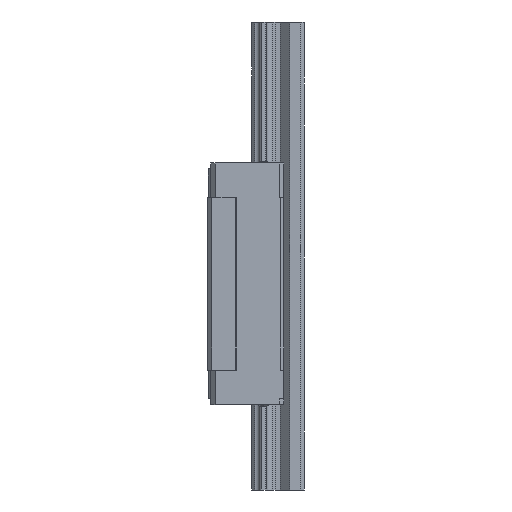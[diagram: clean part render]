
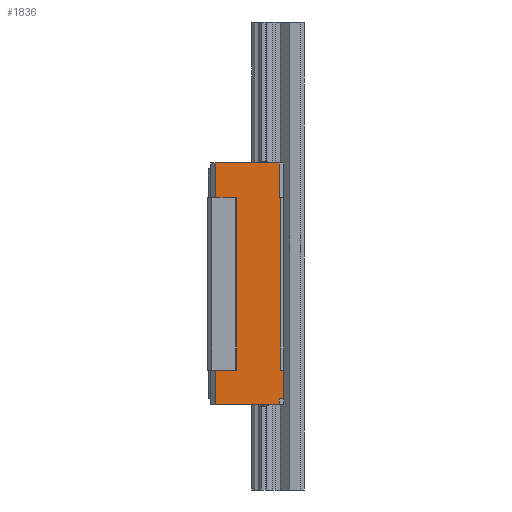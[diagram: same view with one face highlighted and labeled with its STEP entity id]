
A CAD part, left-side view. The second image highlights one B-rep face of the part: STEP entity #1836.
In plain terms, the highlighted planar face has unit normal (-1, 0, 0).
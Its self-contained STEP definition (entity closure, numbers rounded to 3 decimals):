
#159 = EDGE_CURVE ( 'NONE', #13835, #8451, #2828, .T. ) ;
#171 = ORIENTED_EDGE ( 'NONE', *, *, #4341, .F. ) ;
#290 = DIRECTION ( 'NONE',  ( 0., -1., 0. ) ) ;
#305 = LINE ( 'NONE', #13697, #7385 ) ;
#311 = DIRECTION ( 'NONE',  ( 0., 0., -1. ) ) ;
#597 = LINE ( 'NONE', #6511, #13965 ) ;
#693 = DIRECTION ( 'NONE',  ( 0., 0., 1. ) ) ;
#915 = VECTOR ( 'NONE', #693, 1000. ) ;
#923 = EDGE_CURVE ( 'NONE', #12370, #8451, #2545, .T. ) ;
#1058 = ORIENTED_EDGE ( 'NONE', *, *, #2715, .F. ) ;
#1102 = VECTOR ( 'NONE', #15551, 1000. ) ;
#1589 = EDGE_CURVE ( 'NONE', #5056, #3200, #5850, .T. ) ;
#1741 = DIRECTION ( 'NONE',  ( 0., 0., 1. ) ) ;
#1785 = VERTEX_POINT ( 'NONE', #5746 ) ;
#1790 = EDGE_CURVE ( 'NONE', #8989, #5056, #15459, .T. ) ;
#1795 = VECTOR ( 'NONE', #10764, 1000. ) ;
#1836 = ADVANCED_FACE ( 'NONE', ( #14106 ), #6849, .F. ) ;
#2026 = LINE ( 'NONE', #9259, #2737 ) ;
#2420 = EDGE_CURVE ( 'NONE', #13835, #8989, #8831, .T. ) ;
#2545 = LINE ( 'NONE', #11000, #1795 ) ;
#2561 = DIRECTION ( 'NONE',  ( 0., -1., 0. ) ) ;
#2715 = EDGE_CURVE ( 'NONE', #6124, #7032, #8090, .T. ) ;
#2720 = ORIENTED_EDGE ( 'NONE', *, *, #923, .F. ) ;
#2737 = VECTOR ( 'NONE', #5702, 1000. ) ;
#2828 = LINE ( 'NONE', #12297, #7881 ) ;
#2872 = CARTESIAN_POINT ( 'NONE',  ( -23.7, 12.5, 11.8 ) ) ;
#3147 = CARTESIAN_POINT ( 'NONE',  ( -23.7, 0., 0. ) ) ;
#3200 = VERTEX_POINT ( 'NONE', #12592 ) ;
#3279 = DIRECTION ( 'NONE',  ( 0., 1., 0. ) ) ;
#3375 = VERTEX_POINT ( 'NONE', #9704 ) ;
#3584 = VERTEX_POINT ( 'NONE', #2872 ) ;
#4171 = CARTESIAN_POINT ( 'NONE',  ( -23.7, -9.9, -59. ) ) ;
#4244 = VECTOR ( 'NONE', #311, 1000. ) ;
#4341 = EDGE_CURVE ( 'NONE', #1785, #10640, #305, .T. ) ;
#4503 = VERTEX_POINT ( 'NONE', #8505 ) ;
#4583 = CARTESIAN_POINT ( 'NONE',  ( -23.7, -11., -59. ) ) ;
#4858 = CARTESIAN_POINT ( 'NONE',  ( -23.7, -9.9, -59. ) ) ;
#4993 = DIRECTION ( 'NONE',  ( 0., 1., 0. ) ) ;
#5040 = ORIENTED_EDGE ( 'NONE', *, *, #5377, .F. ) ;
#5056 = VERTEX_POINT ( 'NONE', #10380 ) ;
#5163 = ORIENTED_EDGE ( 'NONE', *, *, #14749, .T. ) ;
#5377 = EDGE_CURVE ( 'NONE', #3375, #1785, #2026, .T. ) ;
#5394 = DIRECTION ( 'NONE',  ( 0., -1., 0. ) ) ;
#5702 = DIRECTION ( 'NONE',  ( 0., 1., 0. ) ) ;
#5746 = CARTESIAN_POINT ( 'NONE',  ( -23.7, 12.5, -70.8 ) ) ;
#5850 = LINE ( 'NONE', #4583, #1102 ) ;
#6124 = VERTEX_POINT ( 'NONE', #15326 ) ;
#6264 = EDGE_CURVE ( 'NONE', #3584, #12370, #7340, .T. ) ;
#6511 = CARTESIAN_POINT ( 'NONE',  ( -23.7, 15., -68.8 ) ) ;
#6635 = CARTESIAN_POINT ( 'NONE',  ( -23.7, 12.5, -59. ) ) ;
#6849 = PLANE ( 'NONE',  #15370 ) ;
#7032 = VERTEX_POINT ( 'NONE', #11043 ) ;
#7340 = LINE ( 'NONE', #13487, #7481 ) ;
#7385 = VECTOR ( 'NONE', #1741, 1000. ) ;
#7481 = VECTOR ( 'NONE', #2561, 1000. ) ;
#7678 = ORIENTED_EDGE ( 'NONE', *, *, #1790, .F. ) ;
#7881 = VECTOR ( 'NONE', #4993, 1000. ) ;
#8008 = ORIENTED_EDGE ( 'NONE', *, *, #159, .T. ) ;
#8090 = LINE ( 'NONE', #14167, #915 ) ;
#8415 = LINE ( 'NONE', #8496, #13241 ) ;
#8451 = VERTEX_POINT ( 'NONE', #15232 ) ;
#8496 = CARTESIAN_POINT ( 'NONE',  ( -23.7, -9.5, -59. ) ) ;
#8505 = CARTESIAN_POINT ( 'NONE',  ( -23.7, 12.5, 0. ) ) ;
#8630 = CARTESIAN_POINT ( 'NONE',  ( -23.7, 12.5, -59. ) ) ;
#8831 = LINE ( 'NONE', #4171, #4244 ) ;
#8989 = VERTEX_POINT ( 'NONE', #4858 ) ;
#9069 = EDGE_LOOP ( 'NONE', ( #10475, #15758, #15483, #7678, #10916, #8008, #2720, #9816, #10555, #5163, #1058, #11001, #171, #5040 ) ) ;
#9230 = EDGE_CURVE ( 'NONE', #9923, #3200, #597, .T. ) ;
#9259 = CARTESIAN_POINT ( 'NONE',  ( -23.7, 15., -70.8 ) ) ;
#9383 = DIRECTION ( 'NONE',  ( 0., -1., 0. ) ) ;
#9497 = VECTOR ( 'NONE', #11669, 1000. ) ;
#9704 = CARTESIAN_POINT ( 'NONE',  ( -23.7, -9.5, -70.8 ) ) ;
#9815 = EDGE_CURVE ( 'NONE', #9923, #3375, #8415, .T. ) ;
#9816 = ORIENTED_EDGE ( 'NONE', *, *, #6264, .F. ) ;
#9923 = VERTEX_POINT ( 'NONE', #11529 ) ;
#10380 = CARTESIAN_POINT ( 'NONE',  ( -23.7, -11., -59. ) ) ;
#10475 = ORIENTED_EDGE ( 'NONE', *, *, #9815, .F. ) ;
#10555 = ORIENTED_EDGE ( 'NONE', *, *, #15383, .F. ) ;
#10640 = VERTEX_POINT ( 'NONE', #8630 ) ;
#10764 = DIRECTION ( 'NONE',  ( 0., 0., -1. ) ) ;
#10802 = VECTOR ( 'NONE', #15158, 1000. ) ;
#10916 = ORIENTED_EDGE ( 'NONE', *, *, #2420, .F. ) ;
#11000 = CARTESIAN_POINT ( 'NONE',  ( -23.7, -9.5, -59. ) ) ;
#11001 = ORIENTED_EDGE ( 'NONE', *, *, #14865, .F. ) ;
#11005 = CARTESIAN_POINT ( 'NONE',  ( -23.7, -9.9, 0. ) ) ;
#11043 = CARTESIAN_POINT ( 'NONE',  ( -23.7, 5.3, 0. ) ) ;
#11529 = CARTESIAN_POINT ( 'NONE',  ( -23.7, -9.5, -68.8 ) ) ;
#11669 = DIRECTION ( 'NONE',  ( 0., -1., 0. ) ) ;
#11715 = DIRECTION ( 'NONE',  ( 1., 0., 0. ) ) ;
#11791 = CARTESIAN_POINT ( 'NONE',  ( -23.7, 14., -59. ) ) ;
#11824 = LINE ( 'NONE', #3147, #9497 ) ;
#12297 = CARTESIAN_POINT ( 'NONE',  ( -23.7, 0., 0. ) ) ;
#12324 = CARTESIAN_POINT ( 'NONE',  ( -23.7, -9.5, 11.8 ) ) ;
#12370 = VERTEX_POINT ( 'NONE', #12324 ) ;
#12513 = LINE ( 'NONE', #6635, #10802 ) ;
#12592 = CARTESIAN_POINT ( 'NONE',  ( -23.7, -11., -68.8 ) ) ;
#13241 = VECTOR ( 'NONE', #13293, 1000. ) ;
#13293 = DIRECTION ( 'NONE',  ( 0., 0., -1. ) ) ;
#13487 = CARTESIAN_POINT ( 'NONE',  ( -23.7, 14., 11.8 ) ) ;
#13573 = VECTOR ( 'NONE', #290, 1000. ) ;
#13697 = CARTESIAN_POINT ( 'NONE',  ( -23.7, 12.5, -59. ) ) ;
#13835 = VERTEX_POINT ( 'NONE', #11005 ) ;
#13965 = VECTOR ( 'NONE', #5394, 1000. ) ;
#14098 = VECTOR ( 'NONE', #9383, 1000. ) ;
#14106 = FACE_OUTER_BOUND ( 'NONE', #9069, .T. ) ;
#14167 = CARTESIAN_POINT ( 'NONE',  ( -23.7, 5.3, -59. ) ) ;
#14251 = CARTESIAN_POINT ( 'NONE',  ( -23.7, 14., -59. ) ) ;
#14726 = LINE ( 'NONE', #14879, #13573 ) ;
#14749 = EDGE_CURVE ( 'NONE', #4503, #7032, #11824, .T. ) ;
#14865 = EDGE_CURVE ( 'NONE', #10640, #6124, #14726, .T. ) ;
#14879 = CARTESIAN_POINT ( 'NONE',  ( -23.7, 0., -59. ) ) ;
#15158 = DIRECTION ( 'NONE',  ( 0., 0., 1. ) ) ;
#15232 = CARTESIAN_POINT ( 'NONE',  ( -23.7, -9.5, 0. ) ) ;
#15326 = CARTESIAN_POINT ( 'NONE',  ( -23.7, 5.3, -59. ) ) ;
#15370 = AXIS2_PLACEMENT_3D ( 'NONE', #14251, #11715, #3279 ) ;
#15383 = EDGE_CURVE ( 'NONE', #4503, #3584, #12513, .T. ) ;
#15459 = LINE ( 'NONE', #11791, #14098 ) ;
#15483 = ORIENTED_EDGE ( 'NONE', *, *, #1589, .F. ) ;
#15551 = DIRECTION ( 'NONE',  ( 0., 0., -1. ) ) ;
#15758 = ORIENTED_EDGE ( 'NONE', *, *, #9230, .T. ) ;
